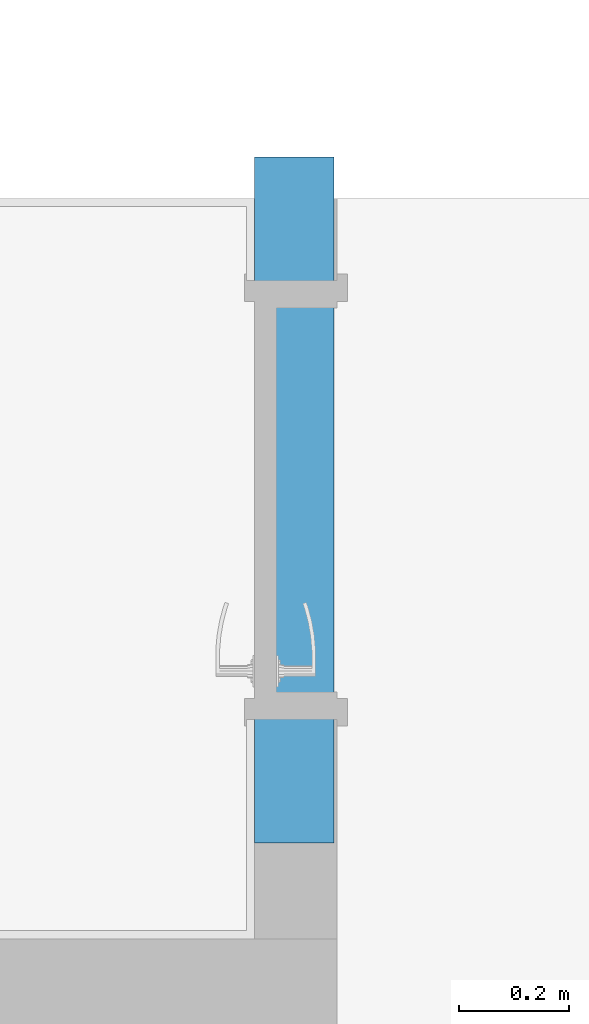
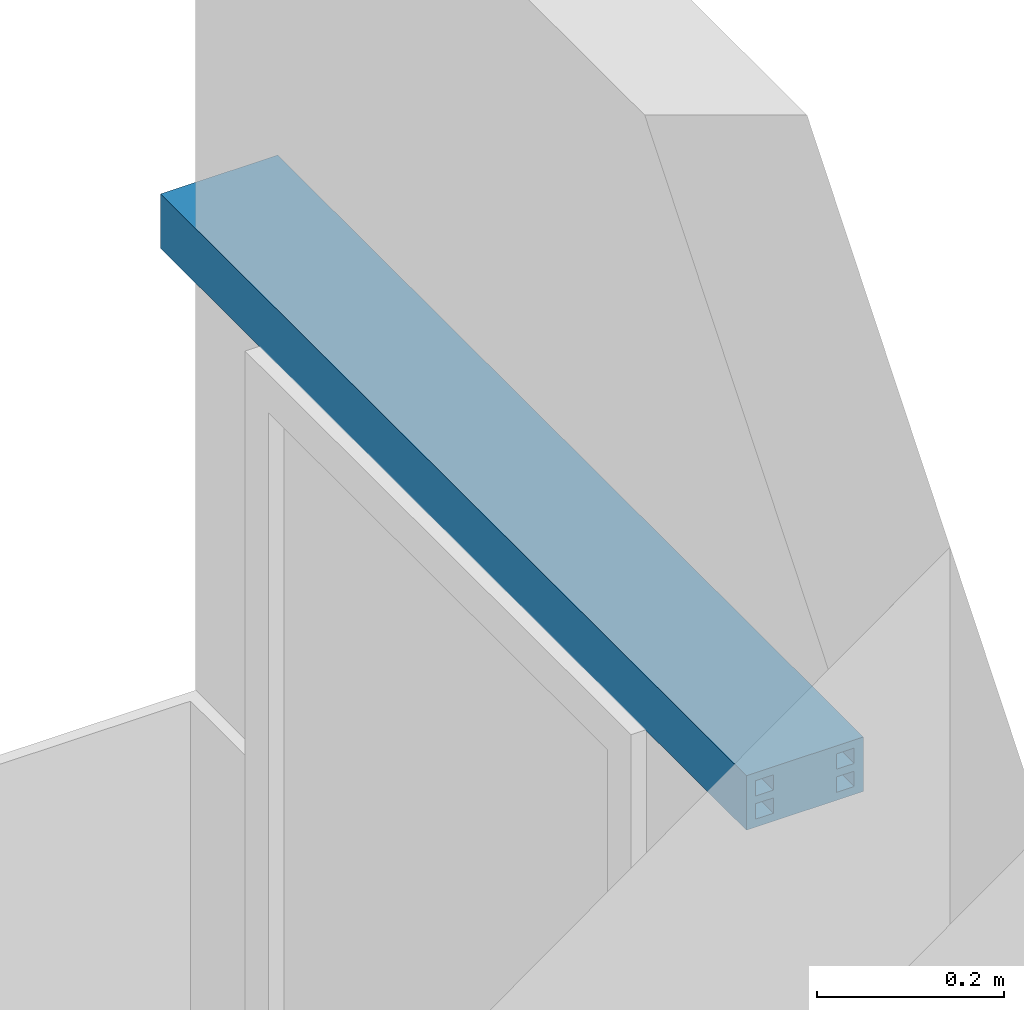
# One storey, part 1 of 9: 1 beam.
"""IFC4 building model written with IfcOpenShell, lengths in millimetres."""

from ifc_helpers import new_model, entity, si_unit, converted_unit, derived_unit, direction, frame, origin_with_axes, place, context, subcontext, project, spatial, polygons, source, transform, mapped, type_object, element, save


model = new_model("IFC4")

# Units and contexts
model_context = context("Model", 3, precision=0.01, world=origin_with_axes(), true_north=direction((0.0, 1.0)))
body_context = subcontext(model_context, "Body", "Model", "MODEL_VIEW")
ifc_project = project(units=[si_unit("LENGTHUNIT", "METRE", prefix="MILLI"), si_unit("AREAUNIT", "SQUARE_METRE"), si_unit("VOLUMEUNIT", "CUBIC_METRE"), converted_unit("PLANEANGLEUNIT", "DEGREE", entity("IfcPlaneAngleMeasure", 0.0174532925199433), si_unit("PLANEANGLEUNIT", "RADIAN"), dimensions=[0, 0, 0, 0, 0, 0, 0]), converted_unit("TIMEUNIT", "Year", entity("IfcTimeMeasure", 31557600.0), si_unit("TIMEUNIT", "SECOND"), dimensions=[0, 0, 1, 0, 0, 0, 0]), si_unit("MASSUNIT", "GRAM", prefix="KILO"), si_unit("THERMODYNAMICTEMPERATUREUNIT", "DEGREE_CELSIUS"), si_unit("LUMINOUSINTENSITYUNIT", "LUMEN"), si_unit("ENERGYUNIT", "JOULE", prefix="MEGA"), derived_unit("THERMALCONDUCTANCEUNIT", [(si_unit("POWERUNIT", "WATT"), 1), (si_unit("LENGTHUNIT", "METRE"), -1), (si_unit("THERMODYNAMICTEMPERATUREUNIT", "KELVIN"), -1)]), derived_unit("SPECIFICHEATCAPACITYUNIT", [(si_unit("ENERGYUNIT", "JOULE"), 1), (si_unit("MASSUNIT", "GRAM", prefix="KILO"), -1), (si_unit("THERMODYNAMICTEMPERATUREUNIT", "KELVIN"), -1)]), derived_unit("MASSDENSITYUNIT", [(si_unit("MASSUNIT", "GRAM", prefix="KILO"), 1), (si_unit("VOLUMEUNIT", "CUBIC_METRE"), -1)])], contexts=[model_context])

# Site, building, storey
site_placement = place(None, origin_with_axes())
site = spatial("IfcSite", under=ifc_project, at=site_placement, Name="Exteriér", CompositionType="ELEMENT")
building_placement = place(site_placement, origin_with_axes())
building = spatial("IfcBuilding", under=site, at=building_placement, Name="Univerzitní lezecké centrum", CompositionType="ELEMENT")
storey_placement = place(building_placement, origin_with_axes())
storey = spatial("IfcBuildingStorey", under=building, at=storey_placement, Name="1.NP", CompositionType="ELEMENT", Elevation=0.0)

# Beam
beam_type = type_object("IfcBeamType", Name="PTH Překlad KP 11,5 a 14,5", PredefinedType="BEAM")
shared_shape = source(origin_with_axes(), body_context, "Body", "Tessellation", [
    polygons([(-625.0, 44.3486623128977, 71.00000000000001), (-625.0, 0.0, 71.00000000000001), (625.0, 0.0, 71.00000000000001), (625.0, 44.34866231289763, 71.00000000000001), (-625.0, 44.34866231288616, 36.49999605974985), (-625.0, 46.47223501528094, 31.73716465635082), (-625.0, 49.39641603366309, 27.4240948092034), (-625.0, 53.02998777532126, 23.69532943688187), (-625.0, 57.25960374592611, 20.66718452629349), (-625.0, 61.95332430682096, 18.4341207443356), (-625.0, 66.96473243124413, 17.06579680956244), (-625.0, 72.13750107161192, 16.60489654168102), (-625.0, 77.31026966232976, 17.06579737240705), (-625.0, 82.32167763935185, 18.43412185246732), (-625.0, 87.01539795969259, 20.66718614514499), (-625.0, 91.24501360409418, 23.69533151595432), (-625.0, 94.87858494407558, 27.42409728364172), (-625.0, 97.80276549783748, 31.7371674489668), (-625.0, 99.92633768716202, 36.49999908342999), (-625.0, 99.926337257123, 71.00000000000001), (-625.0, 144.274998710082, 71.0), (-625.0, 144.274998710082, 0.0), (-625.0, 0.0, 0.0), (-625.0, 11.4425, 10.49963740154), (-625.0, 33.3325, 10.49963740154), (-625.0, 33.3325, 30.49963740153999), (-625.0, 11.4425, 30.49963740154), (-625.0, 11.4425, 40.5), (-625.0, 33.3325, 40.5), (-625.0, 33.33250000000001, 60.5), (-625.0, 11.4425, 60.5), (-625.0, 132.83136377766, 10.49963740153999), (-625.0, 132.83136377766, 30.49963740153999), (-625.0, 110.94136377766, 30.49963740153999), (-625.0, 110.94136377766, 10.49963740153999), (-625.0, 110.94136377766, 60.49999999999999), (-625.0, 110.94136377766, 40.49999999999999), (-625.0, 132.83136377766, 40.49999999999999), (-625.0, 132.83136377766, 60.49999999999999), (625.0, 0.0, 0.0), (625.0, 144.2749987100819, 0.0), (625.0, 144.2749987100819, 71.0), (625.0, 99.92633725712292, 71.00000000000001), (625.0, 99.92633768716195, 36.49999908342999), (625.0, 97.80276549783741, 31.7371674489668), (625.0, 94.87858494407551, 27.42409728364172), (625.0, 91.24501360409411, 23.69533151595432), (625.0, 87.01539795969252, 20.66718614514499), (625.0, 82.32167763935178, 18.43412185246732), (625.0, 77.31026966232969, 17.06579737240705), (625.0, 72.13750107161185, 16.60489654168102), (625.0, 66.96473243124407, 17.06579680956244), (625.0, 61.95332430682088, 18.4341207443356), (625.0, 57.25960374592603, 20.66718452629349), (625.0, 53.02998777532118, 23.69532943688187), (625.0, 49.39641603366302, 27.4240948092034), (625.0, 46.47223501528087, 31.73716465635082), (625.0, 44.34866231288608, 36.49999605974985), (625.0, 11.44249999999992, 10.49963740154), (625.0, 11.44249999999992, 30.49963740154), (625.0, 33.33249999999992, 30.49963740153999), (625.0, 33.33249999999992, 10.49963740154), (625.0, 11.44249999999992, 40.5), (625.0, 11.44249999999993, 60.5), (625.0, 33.33249999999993, 60.5), (625.0, 33.33249999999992, 40.5), (625.0, 132.8313637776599, 10.49963740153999), (625.0, 110.9413637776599, 10.49963740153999), (625.0, 110.9413637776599, 30.49963740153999), (625.0, 132.8313637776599, 30.49963740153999), (625.0, 110.9413637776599, 60.49999999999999), (625.0, 132.8313637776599, 60.49999999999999), (625.0, 132.8313637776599, 40.49999999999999), (625.0, 110.9413637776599, 40.49999999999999)], [[[1, 2, 3, 4]], [[1, 5, 6, 7, 8, 9, 10, 11, 12, 13, 14, 15, 16, 17, 18, 19, 20, 21, 22, 23, 2], [24, 25, 26, 27], [28, 29, 30, 31], [32, 33, 34, 35], [36, 37, 38, 39]], [[2, 23, 40, 3]], [[4, 3, 40, 41, 42, 43, 44, 45, 46, 47, 48, 49, 50, 51, 52, 53, 54, 55, 56, 57, 58], [59, 60, 61, 62], [63, 64, 65, 66], [67, 68, 69, 70], [71, 72, 73, 74]], [[5, 1, 4, 58]], [[6, 5, 58, 57]], [[7, 6, 57, 56]], [[8, 7, 56, 55]], [[9, 8, 55, 54]], [[10, 9, 54, 53]], [[11, 10, 53, 52]], [[12, 11, 52, 51]], [[13, 12, 51, 50]], [[14, 13, 50, 49]], [[15, 14, 49, 48]], [[16, 15, 48, 47]], [[17, 16, 47, 46]], [[18, 17, 46, 45]], [[19, 18, 45, 44]], [[20, 19, 44, 43]], [[21, 20, 43, 42]], [[22, 21, 42, 41]], [[23, 22, 41, 40]], [[25, 24, 59, 62]], [[26, 25, 62, 61]], [[27, 26, 61, 60]], [[24, 27, 60, 59]], [[29, 28, 63, 66]], [[30, 29, 66, 65]], [[31, 30, 65, 64]], [[28, 31, 64, 63]], [[33, 32, 67, 70]], [[34, 33, 70, 69]], [[35, 34, 69, 68]], [[32, 35, 68, 67]], [[37, 36, 71, 74]], [[38, 37, 74, 73]], [[39, 38, 73, 72]], [[36, 39, 72, 71]]], closed=True),
    polygons([(-625.0, 44.34866231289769, 36.5), (-625.0, 46.47223492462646, 31.73716874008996), (625.0, 46.47223492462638, 31.73716874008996), (625.0, 44.34866231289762, 36.5), (-625.0, 44.3486623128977, 71.00000000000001), (-625.0, 99.926337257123, 71.00000000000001), (-625.0, 99.92633725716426, 36.50000000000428), (-625.0, 97.80276464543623, 31.7371687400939), (-625.0, 94.87858377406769, 27.42409899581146), (-625.0, 91.24501222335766, 23.69533367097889), (-625.0, 87.0153964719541, 20.66718874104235), (-625.0, 82.32167614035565, 18.43412486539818), (-625.0, 77.31026823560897, 17.06580075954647), (-625.0, 72.1374997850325, 16.60490024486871), (-625.0, 66.96473133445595, 17.06580075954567), (-625.0, 61.95332342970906, 18.4341248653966), (-625.0, 57.25960309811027, 20.66718874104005), (-625.0, 53.02998734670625, 23.69533367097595), (-625.0, 49.39641579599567, 27.42409899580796), (-625.0, 78.10749978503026, 42.49999925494), (-625.0, 78.01680207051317, 43.54188832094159), (-625.0, 77.74746473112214, 44.55212011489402), (-625.0, 77.30767144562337, 45.49999925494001), (-625.0, 76.71078511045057, 46.35672491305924), (-625.0, 75.97494181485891, 47.09626591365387), (-625.0, 75.12249978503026, 47.69615167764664), (-625.0, 74.17936004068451, 48.13815497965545), (-625.0, 73.17417940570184, 48.40884577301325), (-625.0, 72.13749978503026, 48.49999925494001), (-625.0, 71.1008201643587, 48.40884577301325), (-625.0, 70.09563952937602, 48.13815497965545), (-625.0, 69.15249978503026, 47.69615167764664), (-625.0, 68.30005775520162, 47.09626591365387), (-625.0, 67.56421445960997, 46.35672491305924), (-625.0, 66.96732812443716, 45.49999925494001), (-625.0, 66.5275348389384, 44.55212011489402), (-625.0, 66.25819749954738, 43.54188832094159), (-625.0, 66.16749978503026, 42.49999925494), (-625.0, 66.25819749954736, 41.45811018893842), (-625.0, 66.52753483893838, 40.44787839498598), (-625.0, 66.96732812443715, 39.49999925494), (-625.0, 67.56421445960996, 38.64327359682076), (-625.0, 68.3000577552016, 37.90373259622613), (-625.0, 69.15249978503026, 37.30384683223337), (-625.0, 70.09563952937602, 36.86184353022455), (-625.0, 71.1008201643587, 36.59115273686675), (-625.0, 72.13749978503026, 36.49999925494), (-625.0, 73.17417940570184, 36.59115273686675), (-625.0, 74.17936004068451, 36.86184353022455), (-625.0, 75.12249978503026, 37.30384683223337), (-625.0, 75.9749418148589, 37.90373259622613), (-625.0, 76.71078511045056, 38.64327359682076), (-625.0, 77.30767144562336, 39.49999925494), (-625.0, 77.74746473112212, 40.44787839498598), (-625.0, 78.01680207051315, 41.45811018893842), (625.0, 49.39641579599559, 27.42409899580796), (625.0, 53.02998734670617, 23.69533367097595), (625.0, 57.25960309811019, 20.66718874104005), (625.0, 61.95332342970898, 18.4341248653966), (625.0, 66.96473133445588, 17.06580075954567), (625.0, 72.13749978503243, 16.60490024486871), (625.0, 77.3102682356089, 17.06580075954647), (625.0, 82.32167614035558, 18.43412486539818), (625.0, 87.01539647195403, 20.66718874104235), (625.0, 91.24501222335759, 23.69533367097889), (625.0, 94.87858377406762, 27.42409899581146), (625.0, 97.80276464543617, 31.7371687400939), (625.0, 99.92633725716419, 36.50000000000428), (625.0, 99.92633725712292, 71.00000000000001), (625.0, 44.34866231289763, 71.00000000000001), (625.0, 78.10749978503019, 42.49999925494), (625.0, 78.01680207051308, 41.45811018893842), (625.0, 77.74746473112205, 40.44787839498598), (625.0, 77.30767144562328, 39.49999925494), (625.0, 76.71078511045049, 38.64327359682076), (625.0, 75.97494181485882, 37.90373259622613), (625.0, 75.12249978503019, 37.30384683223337), (625.0, 74.17936004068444, 36.86184353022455), (625.0, 73.17417940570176, 36.59115273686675), (625.0, 72.13749978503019, 36.49999925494), (625.0, 71.10082016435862, 36.59115273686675), (625.0, 70.09563952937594, 36.86184353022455), (625.0, 69.15249978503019, 37.30384683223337), (625.0, 68.30005775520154, 37.90373259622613), (625.0, 67.56421445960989, 38.64327359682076), (625.0, 66.96732812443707, 39.49999925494), (625.0, 66.52753483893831, 40.44787839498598), (625.0, 66.2581974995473, 41.45811018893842), (625.0, 66.16749978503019, 42.49999925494), (625.0, 66.25819749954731, 43.54188832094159), (625.0, 66.52753483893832, 44.55212011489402), (625.0, 66.96732812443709, 45.49999925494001), (625.0, 67.5642144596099, 46.35672491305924), (625.0, 68.30005775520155, 47.09626591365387), (625.0, 69.15249978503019, 47.69615167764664), (625.0, 70.09563952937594, 48.13815497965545), (625.0, 71.10082016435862, 48.40884577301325), (625.0, 72.13749978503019, 48.49999925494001), (625.0, 73.17417940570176, 48.40884577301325), (625.0, 74.17936004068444, 48.13815497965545), (625.0, 75.12249978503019, 47.69615167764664), (625.0, 75.97494181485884, 47.09626591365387), (625.0, 76.7107851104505, 46.35672491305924), (625.0, 77.3076714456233, 45.49999925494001), (625.0, 77.74746473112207, 44.55212011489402), (625.0, 78.0168020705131, 43.54188832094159)], [[[1, 2, 3, 4]], [[1, 5, 6, 7, 8, 9, 10, 11, 12, 13, 14, 15, 16, 17, 18, 19, 2], [20, 21, 22, 23, 24, 25, 26, 27, 28, 29, 30, 31, 32, 33, 34, 35, 36, 37, 38, 39, 40, 41, 42, 43, 44, 45, 46, 47, 48, 49, 50, 51, 52, 53, 54, 55]], [[2, 19, 56, 3]], [[4, 3, 56, 57, 58, 59, 60, 61, 62, 63, 64, 65, 66, 67, 68, 69, 70], [71, 72, 73, 74, 75, 76, 77, 78, 79, 80, 81, 82, 83, 84, 85, 86, 87, 88, 89, 90, 91, 92, 93, 94, 95, 96, 97, 98, 99, 100, 101, 102, 103, 104, 105, 106]], [[5, 1, 4, 70]], [[6, 5, 70, 69]], [[7, 6, 69, 68]], [[8, 7, 68, 67]], [[9, 8, 67, 66]], [[10, 9, 66, 65]], [[11, 10, 65, 64]], [[12, 11, 64, 63]], [[13, 12, 63, 62]], [[14, 13, 62, 61]], [[15, 14, 61, 60]], [[16, 15, 60, 59]], [[17, 16, 59, 58]], [[18, 17, 58, 57]], [[19, 18, 57, 56]], [[21, 20, 71, 106]], [[22, 21, 106, 105]], [[23, 22, 105, 104]], [[24, 23, 104, 103]], [[25, 24, 103, 102]], [[26, 25, 102, 101]], [[27, 26, 101, 100]], [[28, 27, 100, 99]], [[29, 28, 99, 98]], [[30, 29, 98, 97]], [[31, 30, 97, 96]], [[32, 31, 96, 95]], [[33, 32, 95, 94]], [[34, 33, 94, 93]], [[35, 34, 93, 92]], [[36, 35, 92, 91]], [[37, 36, 91, 90]], [[38, 37, 90, 89]], [[39, 38, 89, 88]], [[40, 39, 88, 87]], [[41, 40, 87, 86]], [[42, 41, 86, 85]], [[43, 42, 85, 84]], [[44, 43, 84, 83]], [[45, 44, 83, 82]], [[46, 45, 82, 81]], [[47, 46, 81, 80]], [[48, 47, 80, 79]], [[49, 48, 79, 78]], [[50, 49, 78, 77]], [[51, 50, 77, 76]], [[52, 51, 76, 75]], [[53, 52, 75, 74]], [[54, 53, 74, 73]], [[55, 54, 73, 72]], [[20, 55, 72, 71]]], closed=True),
    polygons([(-625.0, 66.16749978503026, 42.49999925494), (-625.0, 66.25819749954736, 41.45811018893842), (625.0, 66.2581974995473, 41.45811018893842), (625.0, 66.16749978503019, 42.49999925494), (-625.0, 66.25819749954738, 43.54188832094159), (-625.0, 66.5275348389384, 44.55212011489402), (-625.0, 66.96732812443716, 45.49999925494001), (-625.0, 67.56421445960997, 46.35672491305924), (-625.0, 68.30005775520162, 47.09626591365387), (-625.0, 69.15249978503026, 47.69615167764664), (-625.0, 70.09563952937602, 48.13815497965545), (-625.0, 71.1008201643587, 48.40884577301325), (-625.0, 72.13749978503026, 48.49999925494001), (-625.0, 73.17417940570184, 48.40884577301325), (-625.0, 74.17936004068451, 48.13815497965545), (-625.0, 75.12249978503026, 47.69615167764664), (-625.0, 75.97494181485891, 47.09626591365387), (-625.0, 76.71078511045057, 46.35672491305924), (-625.0, 77.30767144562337, 45.49999925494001), (-625.0, 77.74746473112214, 44.55212011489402), (-625.0, 78.01680207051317, 43.54188832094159), (-625.0, 78.10749978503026, 42.49999925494), (-625.0, 78.01680207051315, 41.45811018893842), (-625.0, 77.74746473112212, 40.44787839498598), (-625.0, 77.30767144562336, 39.49999925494), (-625.0, 76.71078511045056, 38.64327359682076), (-625.0, 75.9749418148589, 37.90373259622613), (-625.0, 75.12249978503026, 37.30384683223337), (-625.0, 74.17936004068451, 36.86184353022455), (-625.0, 73.17417940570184, 36.59115273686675), (-625.0, 72.13749978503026, 36.49999925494), (-625.0, 71.1008201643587, 36.59115273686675), (-625.0, 70.09563952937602, 36.86184353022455), (-625.0, 69.15249978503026, 37.30384683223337), (-625.0, 68.3000577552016, 37.90373259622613), (-625.0, 67.56421445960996, 38.64327359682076), (-625.0, 66.96732812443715, 39.49999925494), (-625.0, 66.52753483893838, 40.44787839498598), (625.0, 66.52753483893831, 40.44787839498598), (625.0, 66.96732812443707, 39.49999925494), (625.0, 67.56421445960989, 38.64327359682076), (625.0, 68.30005775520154, 37.90373259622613), (625.0, 69.15249978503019, 37.30384683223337), (625.0, 70.09563952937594, 36.86184353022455), (625.0, 71.10082016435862, 36.59115273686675), (625.0, 72.13749978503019, 36.49999925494), (625.0, 73.17417940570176, 36.59115273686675), (625.0, 74.17936004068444, 36.86184353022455), (625.0, 75.12249978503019, 37.30384683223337), (625.0, 75.97494181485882, 37.90373259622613), (625.0, 76.71078511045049, 38.64327359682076), (625.0, 77.30767144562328, 39.49999925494), (625.0, 77.74746473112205, 40.44787839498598), (625.0, 78.01680207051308, 41.45811018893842), (625.0, 78.10749978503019, 42.49999925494), (625.0, 78.0168020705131, 43.54188832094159), (625.0, 77.74746473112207, 44.55212011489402), (625.0, 77.3076714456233, 45.49999925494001), (625.0, 76.7107851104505, 46.35672491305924), (625.0, 75.97494181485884, 47.09626591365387), (625.0, 75.12249978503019, 47.69615167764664), (625.0, 74.17936004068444, 48.13815497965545), (625.0, 73.17417940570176, 48.40884577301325), (625.0, 72.13749978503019, 48.49999925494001), (625.0, 71.10082016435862, 48.40884577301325), (625.0, 70.09563952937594, 48.13815497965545), (625.0, 69.15249978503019, 47.69615167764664), (625.0, 68.30005775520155, 47.09626591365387), (625.0, 67.5642144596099, 46.35672491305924), (625.0, 66.96732812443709, 45.49999925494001), (625.0, 66.52753483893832, 44.55212011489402), (625.0, 66.25819749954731, 43.54188832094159)], [[[1, 2, 3, 4]], [[1, 5, 6, 7, 8, 9, 10, 11, 12, 13, 14, 15, 16, 17, 18, 19, 20, 21, 22, 23, 24, 25, 26, 27, 28, 29, 30, 31, 32, 33, 34, 35, 36, 37, 38, 2]], [[2, 38, 39, 3]], [[4, 3, 39, 40, 41, 42, 43, 44, 45, 46, 47, 48, 49, 50, 51, 52, 53, 54, 55, 56, 57, 58, 59, 60, 61, 62, 63, 64, 65, 66, 67, 68, 69, 70, 71, 72]], [[5, 1, 4, 72]], [[6, 5, 72, 71]], [[7, 6, 71, 70]], [[8, 7, 70, 69]], [[9, 8, 69, 68]], [[10, 9, 68, 67]], [[11, 10, 67, 66]], [[12, 11, 66, 65]], [[13, 12, 65, 64]], [[14, 13, 64, 63]], [[15, 14, 63, 62]], [[16, 15, 62, 61]], [[17, 16, 61, 60]], [[18, 17, 60, 59]], [[19, 18, 59, 58]], [[20, 19, 58, 57]], [[21, 20, 57, 56]], [[22, 21, 56, 55]], [[23, 22, 55, 54]], [[24, 23, 54, 53]], [[25, 24, 53, 52]], [[26, 25, 52, 51]], [[27, 26, 51, 50]], [[28, 27, 50, 49]], [[29, 28, 49, 48]], [[30, 29, 48, 47]], [[31, 30, 47, 46]], [[32, 31, 46, 45]], [[33, 32, 45, 44]], [[34, 33, 44, 43]], [[35, 34, 43, 42]], [[36, 35, 42, 41]], [[37, 36, 41, 40]], [[38, 37, 40, 39]]], closed=True),
])
beam_placement = place(storey_placement, frame((-3100.40886874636, 3850.00000000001, 2030.0), z_axis=(0.0, 0.0, 1.0), x_axis=(0.0, -1.0, 0.0)))
element("IfcBeam", 1, at=beam_placement, inside=storey, type_object=beam_type, Name="Pk01", PredefinedType="BEAM", context=body_context, shape_type="MappedRepresentation", body=[
    mapped(shared_shape, transform((0.0, 0.0, 0.0))),
])

save(model, "model.ifc")
